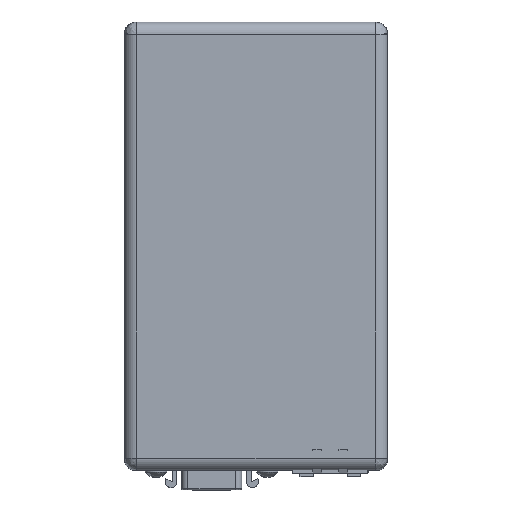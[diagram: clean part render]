
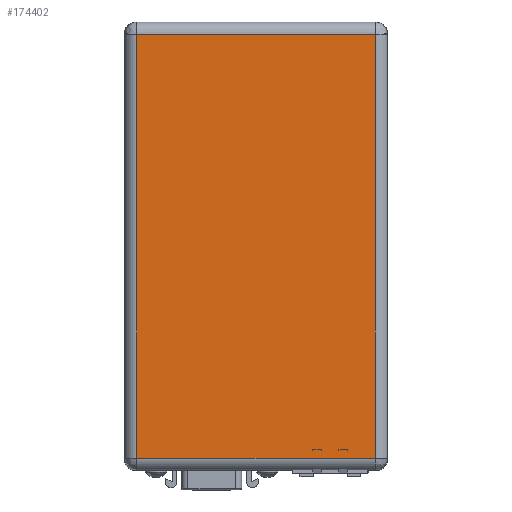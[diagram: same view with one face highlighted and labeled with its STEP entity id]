
A CAD part, top view. The second image highlights one B-rep face of the part: STEP entity #174402.
In plain terms, the highlighted planar face has unit normal (0, 0, 1).
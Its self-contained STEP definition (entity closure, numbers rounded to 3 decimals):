
#368 = EDGE_CURVE ( 'NONE', #63930, #125439, #142790, .T. ) ;
#461 = CARTESIAN_POINT ( 'NONE',  ( -25.298, -71.018, 15.3 ) ) ;
#4164 = DIRECTION ( 'NONE',  ( -1., 0., 0. ) ) ;
#8388 = LINE ( 'NONE', #164837, #80592 ) ;
#25276 = FACE_OUTER_BOUND ( 'NONE', #160357, .T. ) ;
#31599 = LINE ( 'NONE', #39373, #146482 ) ;
#39373 = CARTESIAN_POINT ( 'NONE',  ( 25.298, 18.948, 15.3 ) ) ;
#39419 = CARTESIAN_POINT ( 'NONE',  ( -25.298, 18.948, 15.3 ) ) ;
#47013 = VERTEX_POINT ( 'NONE', #89247 ) ;
#51955 = DIRECTION ( 'NONE',  ( 0., 0., 1. ) ) ;
#54495 = DIRECTION ( 'NONE',  ( 0., 1., 0. ) ) ;
#54543 = DIRECTION ( 'NONE',  ( 0., -1., 0. ) ) ;
#63930 = VERTEX_POINT ( 'NONE', #117388 ) ;
#65812 = PLANE ( 'NONE',  #141353 ) ;
#67346 = ORIENTED_EDGE ( 'NONE', *, *, #91234, .T. ) ;
#73116 = LINE ( 'NONE', #137149, #111350 ) ;
#80592 = VECTOR ( 'NONE', #179168, 1000. ) ;
#89247 = CARTESIAN_POINT ( 'NONE',  ( 25.298, -71.018, 15.3 ) ) ;
#91234 = EDGE_CURVE ( 'NONE', #131429, #63930, #73116, .T. ) ;
#93079 = EDGE_CURVE ( 'NONE', #47013, #131429, #31599, .T. ) ;
#99604 = CARTESIAN_POINT ( 'NONE',  ( 25.298, 18.948, 15.3 ) ) ;
#108180 = ORIENTED_EDGE ( 'NONE', *, *, #93079, .T. ) ;
#111350 = VECTOR ( 'NONE', #4164, 1000. ) ;
#117388 = CARTESIAN_POINT ( 'NONE',  ( -25.298, 18.948, 15.3 ) ) ;
#119867 = ORIENTED_EDGE ( 'NONE', *, *, #172408, .T. ) ;
#125439 = VERTEX_POINT ( 'NONE', #461 ) ;
#131429 = VERTEX_POINT ( 'NONE', #99604 ) ;
#137149 = CARTESIAN_POINT ( 'NONE',  ( 25.298, 18.948, 15.3 ) ) ;
#138181 = CARTESIAN_POINT ( 'NONE',  ( 25.298, 18.948, 15.3 ) ) ;
#141353 = AXIS2_PLACEMENT_3D ( 'NONE', #138181, #51955, #152677 ) ;
#142790 = LINE ( 'NONE', #39419, #176521 ) ;
#146482 = VECTOR ( 'NONE', #54495, 1000. ) ;
#152677 = DIRECTION ( 'NONE',  ( 1., 0., 0. ) ) ;
#154591 = ORIENTED_EDGE ( 'NONE', *, *, #368, .T. ) ;
#160357 = EDGE_LOOP ( 'NONE', ( #154591, #119867, #108180, #67346 ) ) ;
#164837 = CARTESIAN_POINT ( 'NONE',  ( 25.298, -71.018, 15.3 ) ) ;
#172408 = EDGE_CURVE ( 'NONE', #125439, #47013, #8388, .T. ) ;
#174402 = ADVANCED_FACE ( 'NONE', ( #25276 ), #65812, .T. ) ;
#176521 = VECTOR ( 'NONE', #54543, 1000. ) ;
#179168 = DIRECTION ( 'NONE',  ( 1., 0., 0. ) ) ;
